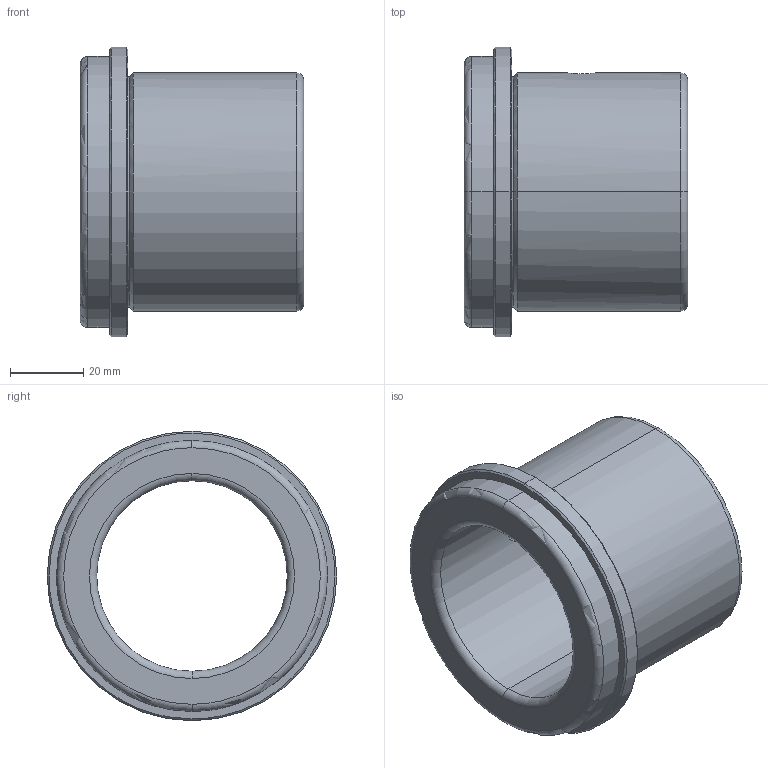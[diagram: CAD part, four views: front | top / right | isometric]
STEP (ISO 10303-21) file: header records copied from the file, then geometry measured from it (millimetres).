
FILE_DESCRIPTION(('CATIA V5 STEP Exchange'),'2;1');
FILE_NAME('C:\Users\Utente\Desktop\IO LAVORO\3D X SITO CF\X SITO\CF 631\CF 631 52 x 61.stp','2020-12-26T19:15:20+00:00',('none'),('none'),'CATIA Version 5 Release 20 GA (IN-10)','CATIA V5 STEP AP203','none');
FILE_SCHEMA(('CONFIG_CONTROL_DESIGN'));
Length unit declared in the file: millimetre
Products named in the file (1): CF 631 52 x 61
Bounding box: 61 x 79 x 79 mm (x, y, z)
Volume: 87027.5 mm3; surface area: 28249.1 mm2
Topology: 1 solids, 1 shells, 33 faces, 114 edges, 86 vertices
Faces by surface type: cylinder 12, torus 8, cone 8, plane 5
Entity records: 1561 total; most frequent: CARTESIAN_POINT 545, ORIENTED_EDGE 228, DIRECTION 156, EDGE_CURVE 114, AXIS2_PLACEMENT_3D 104, VERTEX_POINT 86, CIRCLE 70, EDGE_LOOP 40
